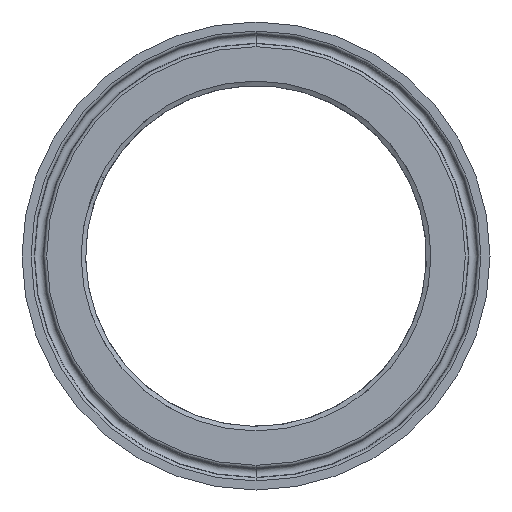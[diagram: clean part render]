
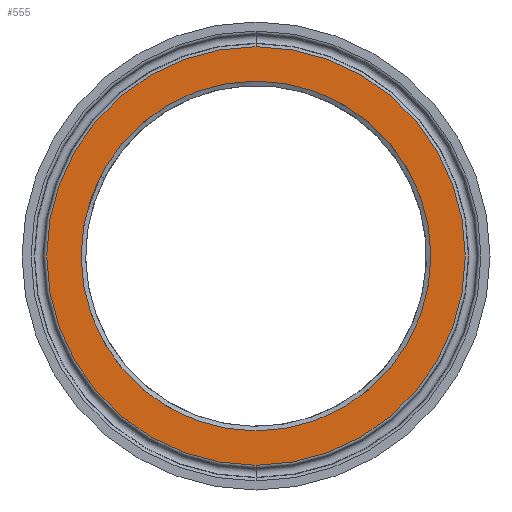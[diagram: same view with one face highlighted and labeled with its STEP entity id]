
A CAD part, front view. The second image highlights one B-rep face of the part: STEP entity #555.
In plain terms, the highlighted planar face has unit normal (0, -1, 0).
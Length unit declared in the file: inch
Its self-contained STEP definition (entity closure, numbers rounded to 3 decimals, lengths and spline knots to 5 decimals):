
#43 = DIRECTION ( 'NONE',  ( 0., 1., 0. ) ) ;
#86 = CIRCLE ( 'NONE', #1609, 2.09363 ) ;
#121 = VERTEX_POINT ( 'NONE', #1035 ) ;
#162 = CIRCLE ( 'NONE', #361, 2.09363 ) ;
#167 = EDGE_CURVE ( 'NONE', #1207, #1621, #2363, .T. ) ;
#174 = CARTESIAN_POINT ( 'NONE',  ( 0., -0.625, 0. ) ) ;
#195 = EDGE_LOOP ( 'NONE', ( #1426, #1523 ) ) ;
#254 = FACE_BOUND ( 'NONE', #195, .T. ) ;
#286 = DIRECTION ( 'NONE',  ( 0., 0., 1. ) ) ;
#347 = ORIENTED_EDGE ( 'NONE', *, *, #1246, .T. ) ;
#361 = AXIS2_PLACEMENT_3D ( 'NONE', #174, #2404, #948 ) ;
#387 = CARTESIAN_POINT ( 'NONE',  ( 0., -0.625, -2.09363 ) ) ;
#397 = VERTEX_POINT ( 'NONE', #387 ) ;
#436 = FACE_OUTER_BOUND ( 'NONE', #1042, .T. ) ;
#502 = CARTESIAN_POINT ( 'NONE',  ( 0., -0.625, 0. ) ) ;
#509 = DIRECTION ( 'NONE',  ( 0., 1., 0. ) ) ;
#555 = ADVANCED_FACE ( 'NONE', ( #254, #436 ), #1515, .F. ) ;
#849 = DIRECTION ( 'NONE',  ( 0., 0., 1. ) ) ;
#854 = CARTESIAN_POINT ( 'NONE',  ( 0., -0.625, 0. ) ) ;
#902 = DIRECTION ( 'NONE',  ( 0., 0., -1. ) ) ;
#948 = DIRECTION ( 'NONE',  ( 0., 0., -1. ) ) ;
#1035 = CARTESIAN_POINT ( 'NONE',  ( 0., -0.625, 2.09363 ) ) ;
#1042 = EDGE_LOOP ( 'NONE', ( #1096, #347 ) ) ;
#1062 = CIRCLE ( 'NONE', #2007, 1.75 ) ;
#1096 = ORIENTED_EDGE ( 'NONE', *, *, #1121, .T. ) ;
#1121 = EDGE_CURVE ( 'NONE', #397, #121, #86, .T. ) ;
#1207 = VERTEX_POINT ( 'NONE', #1651 ) ;
#1246 = EDGE_CURVE ( 'NONE', #121, #397, #162, .T. ) ;
#1381 = DIRECTION ( 'NONE',  ( 0., 0., 1. ) ) ;
#1426 = ORIENTED_EDGE ( 'NONE', *, *, #167, .T. ) ;
#1513 = AXIS2_PLACEMENT_3D ( 'NONE', #1537, #43, #1381 ) ;
#1515 = PLANE ( 'NONE',  #1513 ) ;
#1523 = ORIENTED_EDGE ( 'NONE', *, *, #1908, .T. ) ;
#1537 = CARTESIAN_POINT ( 'NONE',  ( -2.09363, -0.625, 0. ) ) ;
#1609 = AXIS2_PLACEMENT_3D ( 'NONE', #502, #1838, #902 ) ;
#1621 = VERTEX_POINT ( 'NONE', #2008 ) ;
#1651 = CARTESIAN_POINT ( 'NONE',  ( 0., -0.625, 1.75 ) ) ;
#1788 = AXIS2_PLACEMENT_3D ( 'NONE', #2365, #509, #849 ) ;
#1838 = DIRECTION ( 'NONE',  ( 0., -1., 0. ) ) ;
#1908 = EDGE_CURVE ( 'NONE', #1621, #1207, #1062, .T. ) ;
#2007 = AXIS2_PLACEMENT_3D ( 'NONE', #854, #2346, #286 ) ;
#2008 = CARTESIAN_POINT ( 'NONE',  ( 0., -0.625, -1.75 ) ) ;
#2346 = DIRECTION ( 'NONE',  ( 0., 1., 0. ) ) ;
#2363 = CIRCLE ( 'NONE', #1788, 1.75 ) ;
#2365 = CARTESIAN_POINT ( 'NONE',  ( 0., -0.625, 0. ) ) ;
#2404 = DIRECTION ( 'NONE',  ( 0., -1., 0. ) ) ;
